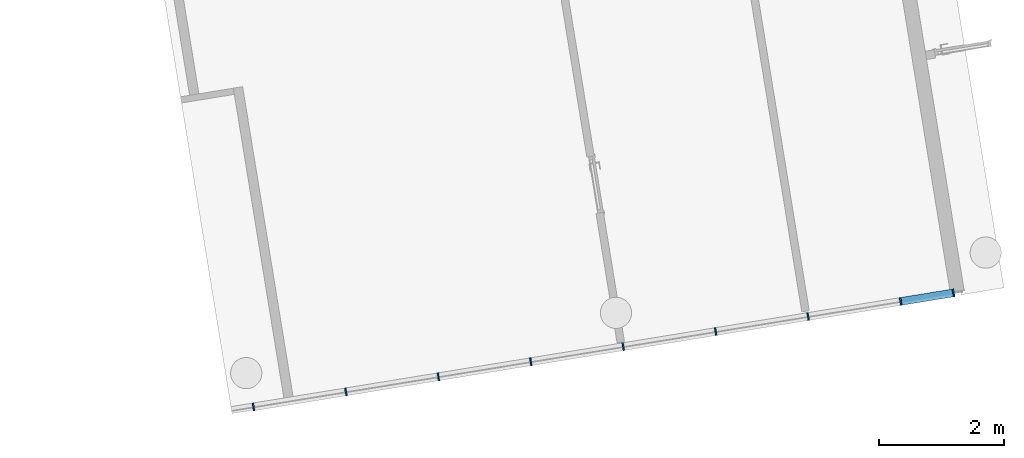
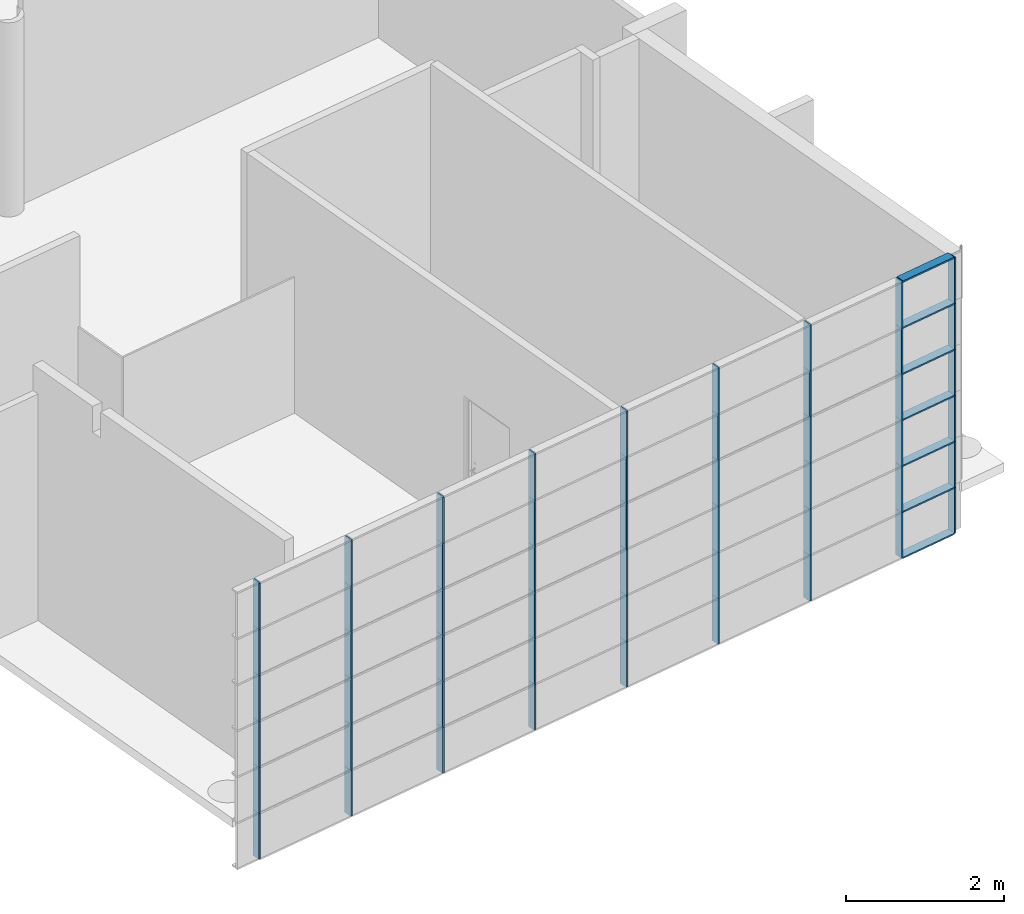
# One storey, part 4 of 18: 61 members, 1 element without a shape of its own.
"""IFC2X3 building model written with IfcOpenShell, lengths in millimetres."""

from ifc_helpers import new_model, entity, si_unit, converted_unit, derived_unit, direction, frame, frame_2d, origin, origin_with_axes, origin_2d_with_axis, place, context, subcontext, project, spatial, rectangle, extrude, source, transform, mapped, material, type_object, element, aggregate, save


model = new_model("IFC2X3")

# Units and contexts
model_context = context("Model", 3, precision=0.01, world=origin(), true_north=direction((6.12323399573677e-17, 1.0)))
plan_context = context("Plan", 3, precision=1e-05, world=origin_with_axes())
body_context = subcontext(model_context, "Body", "Model", "MODEL_VIEW")
ifc_project = project(units=[converted_unit("PLANEANGLEUNIT", "DEGREE", entity("IfcPositiveLengthMeasure", 0.0174532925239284), si_unit("PLANEANGLEUNIT", "RADIAN"), dimensions=[0, 0, 0, 0, 0, 0, 0]), si_unit("AREAUNIT", "SQUARE_METRE"), si_unit("LENGTHUNIT", "METRE", prefix="MILLI"), si_unit("MASSUNIT", "GRAM", prefix="KILO"), si_unit("POWERUNIT", "WATT"), si_unit("PRESSUREUNIT", "PASCAL", prefix="KILO"), si_unit("FORCEUNIT", "NEWTON", prefix="KILO"), si_unit("ELECTRICVOLTAGEUNIT", "VOLT"), si_unit("ELECTRICCURRENTUNIT", "AMPERE"), si_unit("THERMODYNAMICTEMPERATUREUNIT", "DEGREE_CELSIUS"), si_unit("TIMEUNIT", "SECOND"), si_unit("VOLUMEUNIT", "CUBIC_METRE"), derived_unit("LINEARVELOCITYUNIT", [(si_unit("LENGTHUNIT", "METRE"), 1), (si_unit("TIMEUNIT", "SECOND"), -1)]), derived_unit("VOLUMETRICFLOWRATEUNIT", [(si_unit("VOLUMEUNIT", "CUBIC_METRE"), 1), (si_unit("TIMEUNIT", "SECOND"), -1)]), derived_unit("THERMALTRANSMITTANCEUNIT", [(si_unit("POWERUNIT", "WATT"), 1), (si_unit("THERMODYNAMICTEMPERATUREUNIT", "KELVIN"), -1), (si_unit("AREAUNIT", "SQUARE_METRE"), -1)]), derived_unit("SOUNDPRESSUREUNIT", [(si_unit("PRESSUREUNIT", "PASCAL"), 1)])], contexts=[model_context, plan_context])

# Site, building, storey
site_placement = place(None, frame((-305029.896016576, -232111.759730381, 0.0), z_axis=(0.0, 0.0, 1.0), x_axis=(-0.160806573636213, 0.986985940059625, 0.0)))
site = spatial("IfcSite", under=ifc_project, at=site_placement, Name="Default", CompositionType="ELEMENT")
building_placement = place(site_placement, frame((0.0, 0.0, 0.0), z_axis=(0.0, 0.0, 1.0), x_axis=(1.0, -2.77555756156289e-17, 0.0)))
building = spatial("IfcBuilding", under=site, at=building_placement, Name="br001-a-200-1-0001", CompositionType="ELEMENT")
storey_placement = place(building_placement, frame((0.0, 0.0, 55500.0), z_axis=(0.0, 0.0, 1.0), x_axis=(1.0, -2.77555756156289e-17, 0.0)))
storey = spatial("IfcBuildingStorey", under=building, at=storey_placement, Name="H02-Nivå F-3,5 m", CompositionType="ELEMENT", Elevation=55500.0)

# Curtain wall, members
curtain_wall_type = type_object("IfcCurtainWallType", Name="Curtain Wall:Flesland int curt wall", PredefinedType="NOTDEFINED")
curtain_wall_placement = place(storey_placement, frame((0.0, 0.0, -55500.0), z_axis=(0.0, 0.0, 1.0), x_axis=(1.0, -2.77555756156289e-17, 0.0)))
curtain_wall = element("IfcCurtainWall", 1, at=curtain_wall_placement, inside=storey, type_object=curtain_wall_type, Name="Curtain Wall:Flesland int curt wall", ObjectType="Curtain Wall:Flesland int curt wall")
ifc_material = material(Name="Laminate - Ivory, Matte")
member_type_1 = type_object("IfcMemberType", Name="Rectangular Mullion:Flesland Int 25x125", PredefinedType="MULLION", material=ifc_material)
shared_shape_1 = source(origin(), body_context, "Body", "SweptSolid", [
    extrude(rectangle(XDim=25.0, YDim=125.0, at=origin_2d_with_axis()), frame((-12.5, 0.0, -711.0), z_axis=(0.0, 0.0, 1.0), x_axis=(-1.0, 0.0, 0.0)), (0.0, 0.0, 1.0), 711.000000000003),
])
member_1_placement = place(curtain_wall_placement, frame((1172125.09858442, -734166.378367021, 54773.5), z_axis=(0.0, 0.0, -1.0), x_axis=(-2.77555756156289e-17, -1.0, 0.0)))
member_1 = element("IfcMember", 2, at=member_1_placement, type_object=member_type_1, material=ifc_material, Name="Rectangular Mullion:Flesland Int 25x125", ObjectType="Rectangular Mullion:Flesland Int 25x125", context=body_context, shape_type="MappedRepresentation", body=[
    mapped(shared_shape_1, transform((0.0, 0.0, 0.0), scale=1.0)),
])
member_2_placement = place(curtain_wall_placement, frame((1172125.09858442, -734166.378367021, 55484.5), z_axis=(0.0, 0.0, -1.0), x_axis=(-2.77555756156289e-17, -1.0, 0.0)))
member_2 = element("IfcMember", 3, at=member_2_placement, type_object=member_type_1, material=ifc_material, Name="Rectangular Mullion:Flesland Int 25x125", ObjectType="Rectangular Mullion:Flesland Int 25x125", context=body_context, shape_type="MappedRepresentation", body=[
    mapped(shared_shape_1, transform((0.0, 0.0, 0.0), scale=1.0)),
])
member_3_placement = place(curtain_wall_placement, frame((1172125.09858442, -734166.378367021, 56195.5), z_axis=(0.0, 0.0, -1.0), x_axis=(-2.77555756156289e-17, -1.0, 0.0)))
member_3 = element("IfcMember", 4, at=member_3_placement, type_object=member_type_1, material=ifc_material, Name="Rectangular Mullion:Flesland Int 25x125", ObjectType="Rectangular Mullion:Flesland Int 25x125", context=body_context, shape_type="MappedRepresentation", body=[
    mapped(shared_shape_1, transform((0.0, 0.0, 0.0), scale=1.0)),
])
member_4_placement = place(curtain_wall_placement, frame((1172125.09858442, -734166.378367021, 56906.5), z_axis=(0.0, 0.0, -1.0), x_axis=(-2.77555756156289e-17, -1.0, 0.0)))
member_4 = element("IfcMember", 5, at=member_4_placement, type_object=member_type_1, material=ifc_material, Name="Rectangular Mullion:Flesland Int 25x125", ObjectType="Rectangular Mullion:Flesland Int 25x125", context=body_context, shape_type="MappedRepresentation", body=[
    mapped(shared_shape_1, transform((0.0, 0.0, 0.0), scale=1.0)),
])
member_5_placement = place(curtain_wall_placement, frame((1172125.09858442, -734166.378367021, 57617.5), z_axis=(0.0, 0.0, -1.0), x_axis=(-2.77555756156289e-17, -1.0, 0.0)))
member_5 = element("IfcMember", 6, at=member_5_placement, type_object=member_type_1, material=ifc_material, Name="Rectangular Mullion:Flesland Int 25x125", ObjectType="Rectangular Mullion:Flesland Int 25x125", context=body_context, shape_type="MappedRepresentation", body=[
    mapped(shared_shape_1, transform((0.0, 0.0, 0.0), scale=1.0)),
])
member_6_placement = place(curtain_wall_placement, frame((1172125.09858442, -734166.378367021, 58328.5), z_axis=(0.0, 0.0, -1.0), x_axis=(-2.77555756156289e-17, -1.0, 0.0)))
member_6 = element("IfcMember", 7, at=member_6_placement, type_object=member_type_1, material=ifc_material, Name="Rectangular Mullion:Flesland Int 25x125", ObjectType="Rectangular Mullion:Flesland Int 25x125", context=body_context, shape_type="MappedRepresentation", body=[
    mapped(shared_shape_1, transform((0.0, 0.0, 0.0), scale=1.0)),
])
member_type_2 = type_object("IfcMemberType", Name="Rectangular Mullion:Flesland Int 25x125", PredefinedType="MULLION", material=ifc_material)
shared_shape_2 = source(origin(), body_context, "Body", "SweptSolid", [
    extrude(rectangle(XDim=25.0, YDim=125.0, at=frame_2d((0.0, 7.105427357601e-15), x_axis=(1.0, 0.0))), frame((0.0, 0.0, -834.999999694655), z_axis=(0.0, 0.0, 1.0), x_axis=(-1.0, 0.0, 0.0)), (0.0, 0.0, 1.0), 834.999999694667),
])
member_7_placement = place(curtain_wall_placement, frame((1172125.09858442, -734141.378367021, 54773.5), z_axis=(-2.77555756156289e-17, -1.0, 0.0), x_axis=(0.0, 0.0, 1.0)))
member_7 = element("IfcMember", 8, at=member_7_placement, type_object=member_type_2, material=ifc_material, Name="Rectangular Mullion:Flesland Int 25x125", ObjectType="Rectangular Mullion:Flesland Int 25x125", context=body_context, shape_type="MappedRepresentation", body=[
    mapped(shared_shape_2, transform((0.0, 0.0, 0.0), scale=1.0)),
])
member_8_placement = place(curtain_wall_placement, frame((1172125.09858442, -734141.378367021, 55484.5), z_axis=(-2.77555756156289e-17, -1.0, 0.0), x_axis=(0.0, 0.0, 1.0)))
member_8 = element("IfcMember", 9, at=member_8_placement, type_object=member_type_2, material=ifc_material, Name="Rectangular Mullion:Flesland Int 25x125", ObjectType="Rectangular Mullion:Flesland Int 25x125", context=body_context, shape_type="MappedRepresentation", body=[
    mapped(shared_shape_2, transform((0.0, 0.0, 0.0), scale=1.0)),
])
member_9_placement = place(curtain_wall_placement, frame((1172125.09858442, -734141.378367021, 56195.5), z_axis=(-2.77555756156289e-17, -1.0, 0.0), x_axis=(0.0, 0.0, 1.0)))
member_9 = element("IfcMember", 10, at=member_9_placement, type_object=member_type_2, material=ifc_material, Name="Rectangular Mullion:Flesland Int 25x125", ObjectType="Rectangular Mullion:Flesland Int 25x125", context=body_context, shape_type="MappedRepresentation", body=[
    mapped(shared_shape_2, transform((0.0, 0.0, 0.0), scale=1.0)),
])
member_10_placement = place(curtain_wall_placement, frame((1172125.09858442, -734141.378367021, 56906.5), z_axis=(-2.77555756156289e-17, -1.0, 0.0), x_axis=(0.0, 0.0, 1.0)))
member_10 = element("IfcMember", 11, at=member_10_placement, type_object=member_type_2, material=ifc_material, Name="Rectangular Mullion:Flesland Int 25x125", ObjectType="Rectangular Mullion:Flesland Int 25x125", context=body_context, shape_type="MappedRepresentation", body=[
    mapped(shared_shape_2, transform((0.0, 0.0, 0.0), scale=1.0)),
])
member_11_placement = place(curtain_wall_placement, frame((1172125.09858442, -734141.378367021, 57617.5), z_axis=(-2.77555756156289e-17, -1.0, 0.0), x_axis=(0.0, 0.0, 1.0)))
member_11 = element("IfcMember", 12, at=member_11_placement, type_object=member_type_2, material=ifc_material, Name="Rectangular Mullion:Flesland Int 25x125", ObjectType="Rectangular Mullion:Flesland Int 25x125", context=body_context, shape_type="MappedRepresentation", body=[
    mapped(shared_shape_2, transform((0.0, 0.0, 0.0), scale=1.0)),
])
member_12_placement = place(curtain_wall_placement, frame((1172125.09858442, -734141.378367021, 58328.5), z_axis=(-2.77555756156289e-17, -1.0, 0.0), x_axis=(0.0, 0.0, 1.0)))
member_12 = element("IfcMember", 13, at=member_12_placement, type_object=member_type_2, material=ifc_material, Name="Rectangular Mullion:Flesland Int 25x125", ObjectType="Rectangular Mullion:Flesland Int 25x125", context=body_context, shape_type="MappedRepresentation", body=[
    mapped(shared_shape_2, transform((0.0, 0.0, 0.0), scale=1.0)),
])
member_13_placement = place(curtain_wall_placement, frame((1172125.09858442, -734141.378367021, 59039.5), z_axis=(-2.77555756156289e-17, -1.0, 0.0), x_axis=(0.0, 0.0, 1.0)))
member_13 = element("IfcMember", 14, at=member_13_placement, type_object=member_type_2, material=ifc_material, Name="Rectangular Mullion:Flesland Int 25x125", ObjectType="Rectangular Mullion:Flesland Int 25x125", context=body_context, shape_type="MappedRepresentation", body=[
    mapped(shared_shape_2, transform((0.0, 0.0, 0.0), scale=1.0)),
])
member_type_3 = type_object("IfcMemberType", Name="Rectangular Mullion:Flesland Int 25x125", PredefinedType="MULLION", material=ifc_material)
shared_shape_3 = source(origin(), body_context, "Body", "SweptSolid", [
    extrude(rectangle(XDim=25.0, YDim=125.0, at=origin_2d_with_axis()), frame((0.0, 0.0, -711.0), z_axis=(0.0, 0.0, 1.0), x_axis=(-1.0, 0.0, 0.0)), (0.0, 0.0, 1.0), 711.000000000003),
])
member_14_placement = place(curtain_wall_placement, frame((1172125.09858442, -722793.878367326, 54773.5), z_axis=(0.0, 0.0, -1.0), x_axis=(-2.77555756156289e-17, -1.0, 0.0)))
member_14 = element("IfcMember", 15, at=member_14_placement, type_object=member_type_3, material=ifc_material, Name="Rectangular Mullion:Flesland Int 25x125", ObjectType="Rectangular Mullion:Flesland Int 25x125", context=body_context, shape_type="MappedRepresentation", body=[
    mapped(shared_shape_3, transform((0.0, 0.0, 0.0), scale=1.0)),
])
member_15_placement = place(curtain_wall_placement, frame((1172125.09858442, -724293.878367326, 54773.5), z_axis=(0.0, 0.0, -1.0), x_axis=(-2.77555756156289e-17, -1.0, 0.0)))
member_15 = element("IfcMember", 16, at=member_15_placement, type_object=member_type_3, material=ifc_material, Name="Rectangular Mullion:Flesland Int 25x125", ObjectType="Rectangular Mullion:Flesland Int 25x125", context=body_context, shape_type="MappedRepresentation", body=[
    mapped(shared_shape_3, transform((0.0, 0.0, 0.0), scale=1.0)),
])
member_16_placement = place(curtain_wall_placement, frame((1172125.09858442, -725793.878367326, 54773.5), z_axis=(0.0, 0.0, -1.0), x_axis=(-2.77555756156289e-17, -1.0, 0.0)))
member_16 = element("IfcMember", 17, at=member_16_placement, type_object=member_type_3, material=ifc_material, Name="Rectangular Mullion:Flesland Int 25x125", ObjectType="Rectangular Mullion:Flesland Int 25x125", context=body_context, shape_type="MappedRepresentation", body=[
    mapped(shared_shape_3, transform((0.0, 0.0, 0.0), scale=1.0)),
])
member_17_placement = place(curtain_wall_placement, frame((1172125.09858442, -727293.878367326, 54773.5), z_axis=(0.0, 0.0, -1.0), x_axis=(-2.77555756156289e-17, -1.0, 0.0)))
member_17 = element("IfcMember", 18, at=member_17_placement, type_object=member_type_3, material=ifc_material, Name="Rectangular Mullion:Flesland Int 25x125", ObjectType="Rectangular Mullion:Flesland Int 25x125", context=body_context, shape_type="MappedRepresentation", body=[
    mapped(shared_shape_3, transform((0.0, 0.0, 0.0), scale=1.0)),
])
member_18_placement = place(curtain_wall_placement, frame((1172125.09858442, -728793.878367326, 54773.5), z_axis=(0.0, 0.0, -1.0), x_axis=(-2.77555756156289e-17, -1.0, 0.0)))
member_18 = element("IfcMember", 19, at=member_18_placement, type_object=member_type_3, material=ifc_material, Name="Rectangular Mullion:Flesland Int 25x125", ObjectType="Rectangular Mullion:Flesland Int 25x125", context=body_context, shape_type="MappedRepresentation", body=[
    mapped(shared_shape_3, transform((0.0, 0.0, 0.0), scale=1.0)),
])
member_19_placement = place(curtain_wall_placement, frame((1172125.09858442, -730293.878367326, 54773.5), z_axis=(0.0, 0.0, -1.0), x_axis=(-2.77555756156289e-17, -1.0, 0.0)))
member_19 = element("IfcMember", 20, at=member_19_placement, type_object=member_type_3, material=ifc_material, Name="Rectangular Mullion:Flesland Int 25x125", ObjectType="Rectangular Mullion:Flesland Int 25x125", context=body_context, shape_type="MappedRepresentation", body=[
    mapped(shared_shape_3, transform((0.0, 0.0, 0.0), scale=1.0)),
])
member_20_placement = place(curtain_wall_placement, frame((1172125.09858442, -731793.878367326, 54773.5), z_axis=(0.0, 0.0, -1.0), x_axis=(-2.77555756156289e-17, -1.0, 0.0)))
member_20 = element("IfcMember", 21, at=member_20_placement, type_object=member_type_3, material=ifc_material, Name="Rectangular Mullion:Flesland Int 25x125", ObjectType="Rectangular Mullion:Flesland Int 25x125", context=body_context, shape_type="MappedRepresentation", body=[
    mapped(shared_shape_3, transform((0.0, 0.0, 0.0), scale=1.0)),
])
member_21_placement = place(curtain_wall_placement, frame((1172125.09858442, -733293.878367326, 54773.5), z_axis=(0.0, 0.0, -1.0), x_axis=(-2.77555756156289e-17, -1.0, 0.0)))
member_21 = element("IfcMember", 22, at=member_21_placement, type_object=member_type_3, material=ifc_material, Name="Rectangular Mullion:Flesland Int 25x125", ObjectType="Rectangular Mullion:Flesland Int 25x125", context=body_context, shape_type="MappedRepresentation", body=[
    mapped(shared_shape_3, transform((0.0, 0.0, 0.0), scale=1.0)),
])
member_22_placement = place(curtain_wall_placement, frame((1172125.09858442, -722793.878367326, 55484.5), z_axis=(0.0, 0.0, -1.0), x_axis=(-2.77555756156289e-17, -1.0, 0.0)))
member_22 = element("IfcMember", 23, at=member_22_placement, type_object=member_type_3, material=ifc_material, Name="Rectangular Mullion:Flesland Int 25x125", ObjectType="Rectangular Mullion:Flesland Int 25x125", context=body_context, shape_type="MappedRepresentation", body=[
    mapped(shared_shape_3, transform((0.0, 0.0, 0.0), scale=1.0)),
])
member_23_placement = place(curtain_wall_placement, frame((1172125.09858442, -724293.878367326, 55484.5), z_axis=(0.0, 0.0, -1.0), x_axis=(-2.77555756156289e-17, -1.0, 0.0)))
member_23 = element("IfcMember", 24, at=member_23_placement, type_object=member_type_3, material=ifc_material, Name="Rectangular Mullion:Flesland Int 25x125", ObjectType="Rectangular Mullion:Flesland Int 25x125", context=body_context, shape_type="MappedRepresentation", body=[
    mapped(shared_shape_3, transform((0.0, 0.0, 0.0), scale=1.0)),
])
member_24_placement = place(curtain_wall_placement, frame((1172125.09858442, -725793.878367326, 55484.5), z_axis=(0.0, 0.0, -1.0), x_axis=(-2.77555756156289e-17, -1.0, 0.0)))
member_24 = element("IfcMember", 25, at=member_24_placement, type_object=member_type_3, material=ifc_material, Name="Rectangular Mullion:Flesland Int 25x125", ObjectType="Rectangular Mullion:Flesland Int 25x125", context=body_context, shape_type="MappedRepresentation", body=[
    mapped(shared_shape_3, transform((0.0, 0.0, 0.0), scale=1.0)),
])
member_25_placement = place(curtain_wall_placement, frame((1172125.09858442, -727293.878367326, 55484.5), z_axis=(0.0, 0.0, -1.0), x_axis=(-2.77555756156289e-17, -1.0, 0.0)))
member_25 = element("IfcMember", 26, at=member_25_placement, type_object=member_type_3, material=ifc_material, Name="Rectangular Mullion:Flesland Int 25x125", ObjectType="Rectangular Mullion:Flesland Int 25x125", context=body_context, shape_type="MappedRepresentation", body=[
    mapped(shared_shape_3, transform((0.0, 0.0, 0.0), scale=1.0)),
])
member_26_placement = place(curtain_wall_placement, frame((1172125.09858442, -728793.878367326, 55484.5), z_axis=(0.0, 0.0, -1.0), x_axis=(-2.77555756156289e-17, -1.0, 0.0)))
member_26 = element("IfcMember", 27, at=member_26_placement, type_object=member_type_3, material=ifc_material, Name="Rectangular Mullion:Flesland Int 25x125", ObjectType="Rectangular Mullion:Flesland Int 25x125", context=body_context, shape_type="MappedRepresentation", body=[
    mapped(shared_shape_3, transform((0.0, 0.0, 0.0), scale=1.0)),
])
member_27_placement = place(curtain_wall_placement, frame((1172125.09858442, -730293.878367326, 55484.5), z_axis=(0.0, 0.0, -1.0), x_axis=(-2.77555756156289e-17, -1.0, 0.0)))
member_27 = element("IfcMember", 28, at=member_27_placement, type_object=member_type_3, material=ifc_material, Name="Rectangular Mullion:Flesland Int 25x125", ObjectType="Rectangular Mullion:Flesland Int 25x125", context=body_context, shape_type="MappedRepresentation", body=[
    mapped(shared_shape_3, transform((0.0, 0.0, 0.0), scale=1.0)),
])
member_28_placement = place(curtain_wall_placement, frame((1172125.09858442, -731793.878367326, 55484.5), z_axis=(0.0, 0.0, -1.0), x_axis=(-2.77555756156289e-17, -1.0, 0.0)))
member_28 = element("IfcMember", 29, at=member_28_placement, type_object=member_type_3, material=ifc_material, Name="Rectangular Mullion:Flesland Int 25x125", ObjectType="Rectangular Mullion:Flesland Int 25x125", context=body_context, shape_type="MappedRepresentation", body=[
    mapped(shared_shape_3, transform((0.0, 0.0, 0.0), scale=1.0)),
])
member_29_placement = place(curtain_wall_placement, frame((1172125.09858442, -733293.878367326, 55484.5), z_axis=(0.0, 0.0, -1.0), x_axis=(-2.77555756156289e-17, -1.0, 0.0)))
member_29 = element("IfcMember", 30, at=member_29_placement, type_object=member_type_3, material=ifc_material, Name="Rectangular Mullion:Flesland Int 25x125", ObjectType="Rectangular Mullion:Flesland Int 25x125", context=body_context, shape_type="MappedRepresentation", body=[
    mapped(shared_shape_3, transform((0.0, 0.0, 0.0), scale=1.0)),
])
member_30_placement = place(curtain_wall_placement, frame((1172125.09858442, -722793.878367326, 56195.5), z_axis=(0.0, 0.0, -1.0), x_axis=(-2.77555756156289e-17, -1.0, 0.0)))
member_30 = element("IfcMember", 31, at=member_30_placement, type_object=member_type_3, material=ifc_material, Name="Rectangular Mullion:Flesland Int 25x125", ObjectType="Rectangular Mullion:Flesland Int 25x125", context=body_context, shape_type="MappedRepresentation", body=[
    mapped(shared_shape_3, transform((0.0, 0.0, 0.0), scale=1.0)),
])
member_31_placement = place(curtain_wall_placement, frame((1172125.09858442, -724293.878367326, 56195.5), z_axis=(0.0, 0.0, -1.0), x_axis=(-2.77555756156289e-17, -1.0, 0.0)))
member_31 = element("IfcMember", 32, at=member_31_placement, type_object=member_type_3, material=ifc_material, Name="Rectangular Mullion:Flesland Int 25x125", ObjectType="Rectangular Mullion:Flesland Int 25x125", context=body_context, shape_type="MappedRepresentation", body=[
    mapped(shared_shape_3, transform((0.0, 0.0, 0.0), scale=1.0)),
])
member_32_placement = place(curtain_wall_placement, frame((1172125.09858442, -725793.878367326, 56195.5), z_axis=(0.0, 0.0, -1.0), x_axis=(-2.77555756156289e-17, -1.0, 0.0)))
member_32 = element("IfcMember", 33, at=member_32_placement, type_object=member_type_3, material=ifc_material, Name="Rectangular Mullion:Flesland Int 25x125", ObjectType="Rectangular Mullion:Flesland Int 25x125", context=body_context, shape_type="MappedRepresentation", body=[
    mapped(shared_shape_3, transform((0.0, 0.0, 0.0), scale=1.0)),
])
member_33_placement = place(curtain_wall_placement, frame((1172125.09858442, -727293.878367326, 56195.5), z_axis=(0.0, 0.0, -1.0), x_axis=(-2.77555756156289e-17, -1.0, 0.0)))
member_33 = element("IfcMember", 34, at=member_33_placement, type_object=member_type_3, material=ifc_material, Name="Rectangular Mullion:Flesland Int 25x125", ObjectType="Rectangular Mullion:Flesland Int 25x125", context=body_context, shape_type="MappedRepresentation", body=[
    mapped(shared_shape_3, transform((0.0, 0.0, 0.0), scale=1.0)),
])
member_34_placement = place(curtain_wall_placement, frame((1172125.09858442, -728793.878367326, 56195.5), z_axis=(0.0, 0.0, -1.0), x_axis=(-2.77555756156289e-17, -1.0, 0.0)))
member_34 = element("IfcMember", 35, at=member_34_placement, type_object=member_type_3, material=ifc_material, Name="Rectangular Mullion:Flesland Int 25x125", ObjectType="Rectangular Mullion:Flesland Int 25x125", context=body_context, shape_type="MappedRepresentation", body=[
    mapped(shared_shape_3, transform((0.0, 0.0, 0.0), scale=1.0)),
])
member_35_placement = place(curtain_wall_placement, frame((1172125.09858442, -730293.878367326, 56195.5), z_axis=(0.0, 0.0, -1.0), x_axis=(-2.77555756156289e-17, -1.0, 0.0)))
member_35 = element("IfcMember", 36, at=member_35_placement, type_object=member_type_3, material=ifc_material, Name="Rectangular Mullion:Flesland Int 25x125", ObjectType="Rectangular Mullion:Flesland Int 25x125", context=body_context, shape_type="MappedRepresentation", body=[
    mapped(shared_shape_3, transform((0.0, 0.0, 0.0), scale=1.0)),
])
member_36_placement = place(curtain_wall_placement, frame((1172125.09858442, -731793.878367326, 56195.5), z_axis=(0.0, 0.0, -1.0), x_axis=(-2.77555756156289e-17, -1.0, 0.0)))
member_36 = element("IfcMember", 37, at=member_36_placement, type_object=member_type_3, material=ifc_material, Name="Rectangular Mullion:Flesland Int 25x125", ObjectType="Rectangular Mullion:Flesland Int 25x125", context=body_context, shape_type="MappedRepresentation", body=[
    mapped(shared_shape_3, transform((0.0, 0.0, 0.0), scale=1.0)),
])
member_37_placement = place(curtain_wall_placement, frame((1172125.09858442, -733293.878367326, 56195.5), z_axis=(0.0, 0.0, -1.0), x_axis=(-2.77555756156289e-17, -1.0, 0.0)))
member_37 = element("IfcMember", 38, at=member_37_placement, type_object=member_type_3, material=ifc_material, Name="Rectangular Mullion:Flesland Int 25x125", ObjectType="Rectangular Mullion:Flesland Int 25x125", context=body_context, shape_type="MappedRepresentation", body=[
    mapped(shared_shape_3, transform((0.0, 0.0, 0.0), scale=1.0)),
])
member_38_placement = place(curtain_wall_placement, frame((1172125.09858442, -722793.878367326, 56906.5), z_axis=(0.0, 0.0, -1.0), x_axis=(-2.77555756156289e-17, -1.0, 0.0)))
member_38 = element("IfcMember", 39, at=member_38_placement, type_object=member_type_3, material=ifc_material, Name="Rectangular Mullion:Flesland Int 25x125", ObjectType="Rectangular Mullion:Flesland Int 25x125", context=body_context, shape_type="MappedRepresentation", body=[
    mapped(shared_shape_3, transform((0.0, 0.0, 0.0), scale=1.0)),
])
member_39_placement = place(curtain_wall_placement, frame((1172125.09858442, -724293.878367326, 56906.5), z_axis=(0.0, 0.0, -1.0), x_axis=(-2.77555756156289e-17, -1.0, 0.0)))
member_39 = element("IfcMember", 40, at=member_39_placement, type_object=member_type_3, material=ifc_material, Name="Rectangular Mullion:Flesland Int 25x125", ObjectType="Rectangular Mullion:Flesland Int 25x125", context=body_context, shape_type="MappedRepresentation", body=[
    mapped(shared_shape_3, transform((0.0, 0.0, 0.0), scale=1.0)),
])
member_40_placement = place(curtain_wall_placement, frame((1172125.09858442, -725793.878367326, 56906.5), z_axis=(0.0, 0.0, -1.0), x_axis=(-2.77555756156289e-17, -1.0, 0.0)))
member_40 = element("IfcMember", 41, at=member_40_placement, type_object=member_type_3, material=ifc_material, Name="Rectangular Mullion:Flesland Int 25x125", ObjectType="Rectangular Mullion:Flesland Int 25x125", context=body_context, shape_type="MappedRepresentation", body=[
    mapped(shared_shape_3, transform((0.0, 0.0, 0.0), scale=1.0)),
])
member_41_placement = place(curtain_wall_placement, frame((1172125.09858442, -727293.878367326, 56906.5), z_axis=(0.0, 0.0, -1.0), x_axis=(-2.77555756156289e-17, -1.0, 0.0)))
member_41 = element("IfcMember", 42, at=member_41_placement, type_object=member_type_3, material=ifc_material, Name="Rectangular Mullion:Flesland Int 25x125", ObjectType="Rectangular Mullion:Flesland Int 25x125", context=body_context, shape_type="MappedRepresentation", body=[
    mapped(shared_shape_3, transform((0.0, 0.0, 0.0), scale=1.0)),
])
member_42_placement = place(curtain_wall_placement, frame((1172125.09858442, -728793.878367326, 56906.5), z_axis=(0.0, 0.0, -1.0), x_axis=(-2.77555756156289e-17, -1.0, 0.0)))
member_42 = element("IfcMember", 43, at=member_42_placement, type_object=member_type_3, material=ifc_material, Name="Rectangular Mullion:Flesland Int 25x125", ObjectType="Rectangular Mullion:Flesland Int 25x125", context=body_context, shape_type="MappedRepresentation", body=[
    mapped(shared_shape_3, transform((0.0, 0.0, 0.0), scale=1.0)),
])
member_43_placement = place(curtain_wall_placement, frame((1172125.09858442, -730293.878367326, 56906.5), z_axis=(0.0, 0.0, -1.0), x_axis=(-2.77555756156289e-17, -1.0, 0.0)))
member_43 = element("IfcMember", 44, at=member_43_placement, type_object=member_type_3, material=ifc_material, Name="Rectangular Mullion:Flesland Int 25x125", ObjectType="Rectangular Mullion:Flesland Int 25x125", context=body_context, shape_type="MappedRepresentation", body=[
    mapped(shared_shape_3, transform((0.0, 0.0, 0.0), scale=1.0)),
])
member_44_placement = place(curtain_wall_placement, frame((1172125.09858442, -731793.878367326, 56906.5), z_axis=(0.0, 0.0, -1.0), x_axis=(-2.77555756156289e-17, -1.0, 0.0)))
member_44 = element("IfcMember", 45, at=member_44_placement, type_object=member_type_3, material=ifc_material, Name="Rectangular Mullion:Flesland Int 25x125", ObjectType="Rectangular Mullion:Flesland Int 25x125", context=body_context, shape_type="MappedRepresentation", body=[
    mapped(shared_shape_3, transform((0.0, 0.0, 0.0), scale=1.0)),
])
member_45_placement = place(curtain_wall_placement, frame((1172125.09858442, -733293.878367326, 56906.5), z_axis=(0.0, 0.0, -1.0), x_axis=(-2.77555756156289e-17, -1.0, 0.0)))
member_45 = element("IfcMember", 46, at=member_45_placement, type_object=member_type_3, material=ifc_material, Name="Rectangular Mullion:Flesland Int 25x125", ObjectType="Rectangular Mullion:Flesland Int 25x125", context=body_context, shape_type="MappedRepresentation", body=[
    mapped(shared_shape_3, transform((0.0, 0.0, 0.0), scale=1.0)),
])
member_46_placement = place(curtain_wall_placement, frame((1172125.09858442, -722793.878367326, 57617.5), z_axis=(0.0, 0.0, -1.0), x_axis=(-2.77555756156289e-17, -1.0, 0.0)))
member_46 = element("IfcMember", 47, at=member_46_placement, type_object=member_type_3, material=ifc_material, Name="Rectangular Mullion:Flesland Int 25x125", ObjectType="Rectangular Mullion:Flesland Int 25x125", context=body_context, shape_type="MappedRepresentation", body=[
    mapped(shared_shape_3, transform((0.0, 0.0, 0.0), scale=1.0)),
])
member_47_placement = place(curtain_wall_placement, frame((1172125.09858442, -724293.878367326, 57617.5), z_axis=(0.0, 0.0, -1.0), x_axis=(-2.77555756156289e-17, -1.0, 0.0)))
member_47 = element("IfcMember", 48, at=member_47_placement, type_object=member_type_3, material=ifc_material, Name="Rectangular Mullion:Flesland Int 25x125", ObjectType="Rectangular Mullion:Flesland Int 25x125", context=body_context, shape_type="MappedRepresentation", body=[
    mapped(shared_shape_3, transform((0.0, 0.0, 0.0), scale=1.0)),
])
member_48_placement = place(curtain_wall_placement, frame((1172125.09858442, -725793.878367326, 57617.5), z_axis=(0.0, 0.0, -1.0), x_axis=(-2.77555756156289e-17, -1.0, 0.0)))
member_48 = element("IfcMember", 49, at=member_48_placement, type_object=member_type_3, material=ifc_material, Name="Rectangular Mullion:Flesland Int 25x125", ObjectType="Rectangular Mullion:Flesland Int 25x125", context=body_context, shape_type="MappedRepresentation", body=[
    mapped(shared_shape_3, transform((0.0, 0.0, 0.0), scale=1.0)),
])
member_49_placement = place(curtain_wall_placement, frame((1172125.09858442, -727293.878367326, 57617.5), z_axis=(0.0, 0.0, -1.0), x_axis=(-2.77555756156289e-17, -1.0, 0.0)))
member_49 = element("IfcMember", 50, at=member_49_placement, type_object=member_type_3, material=ifc_material, Name="Rectangular Mullion:Flesland Int 25x125", ObjectType="Rectangular Mullion:Flesland Int 25x125", context=body_context, shape_type="MappedRepresentation", body=[
    mapped(shared_shape_3, transform((0.0, 0.0, 0.0), scale=1.0)),
])
member_50_placement = place(curtain_wall_placement, frame((1172125.09858442, -728793.878367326, 57617.5), z_axis=(0.0, 0.0, -1.0), x_axis=(-2.77555756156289e-17, -1.0, 0.0)))
member_50 = element("IfcMember", 51, at=member_50_placement, type_object=member_type_3, material=ifc_material, Name="Rectangular Mullion:Flesland Int 25x125", ObjectType="Rectangular Mullion:Flesland Int 25x125", context=body_context, shape_type="MappedRepresentation", body=[
    mapped(shared_shape_3, transform((0.0, 0.0, 0.0), scale=1.0)),
])
member_51_placement = place(curtain_wall_placement, frame((1172125.09858442, -730293.878367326, 57617.5), z_axis=(0.0, 0.0, -1.0), x_axis=(-2.77555756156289e-17, -1.0, 0.0)))
member_51 = element("IfcMember", 52, at=member_51_placement, type_object=member_type_3, material=ifc_material, Name="Rectangular Mullion:Flesland Int 25x125", ObjectType="Rectangular Mullion:Flesland Int 25x125", context=body_context, shape_type="MappedRepresentation", body=[
    mapped(shared_shape_3, transform((0.0, 0.0, 0.0), scale=1.0)),
])
member_52_placement = place(curtain_wall_placement, frame((1172125.09858442, -731793.878367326, 57617.5), z_axis=(0.0, 0.0, -1.0), x_axis=(-2.77555756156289e-17, -1.0, 0.0)))
member_52 = element("IfcMember", 53, at=member_52_placement, type_object=member_type_3, material=ifc_material, Name="Rectangular Mullion:Flesland Int 25x125", ObjectType="Rectangular Mullion:Flesland Int 25x125", context=body_context, shape_type="MappedRepresentation", body=[
    mapped(shared_shape_3, transform((0.0, 0.0, 0.0), scale=1.0)),
])
member_53_placement = place(curtain_wall_placement, frame((1172125.09858442, -733293.878367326, 57617.5), z_axis=(0.0, 0.0, -1.0), x_axis=(-2.77555756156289e-17, -1.0, 0.0)))
member_53 = element("IfcMember", 54, at=member_53_placement, type_object=member_type_3, material=ifc_material, Name="Rectangular Mullion:Flesland Int 25x125", ObjectType="Rectangular Mullion:Flesland Int 25x125", context=body_context, shape_type="MappedRepresentation", body=[
    mapped(shared_shape_3, transform((0.0, 0.0, 0.0), scale=1.0)),
])
member_54_placement = place(curtain_wall_placement, frame((1172125.09858442, -722793.878367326, 58328.5), z_axis=(0.0, 0.0, -1.0), x_axis=(-2.77555756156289e-17, -1.0, 0.0)))
member_54 = element("IfcMember", 55, at=member_54_placement, type_object=member_type_3, material=ifc_material, Name="Rectangular Mullion:Flesland Int 25x125", ObjectType="Rectangular Mullion:Flesland Int 25x125", context=body_context, shape_type="MappedRepresentation", body=[
    mapped(shared_shape_3, transform((0.0, 0.0, 0.0), scale=1.0)),
])
member_55_placement = place(curtain_wall_placement, frame((1172125.09858442, -724293.878367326, 58328.5), z_axis=(0.0, 0.0, -1.0), x_axis=(-2.77555756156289e-17, -1.0, 0.0)))
member_55 = element("IfcMember", 56, at=member_55_placement, type_object=member_type_3, material=ifc_material, Name="Rectangular Mullion:Flesland Int 25x125", ObjectType="Rectangular Mullion:Flesland Int 25x125", context=body_context, shape_type="MappedRepresentation", body=[
    mapped(shared_shape_3, transform((0.0, 0.0, 0.0), scale=1.0)),
])
member_56_placement = place(curtain_wall_placement, frame((1172125.09858442, -725793.878367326, 58328.5), z_axis=(0.0, 0.0, -1.0), x_axis=(-2.77555756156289e-17, -1.0, 0.0)))
member_56 = element("IfcMember", 57, at=member_56_placement, type_object=member_type_3, material=ifc_material, Name="Rectangular Mullion:Flesland Int 25x125", ObjectType="Rectangular Mullion:Flesland Int 25x125", context=body_context, shape_type="MappedRepresentation", body=[
    mapped(shared_shape_3, transform((0.0, 0.0, 0.0), scale=1.0)),
])
member_57_placement = place(curtain_wall_placement, frame((1172125.09858442, -727293.878367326, 58328.5), z_axis=(0.0, 0.0, -1.0), x_axis=(-2.77555756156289e-17, -1.0, 0.0)))
member_57 = element("IfcMember", 58, at=member_57_placement, type_object=member_type_3, material=ifc_material, Name="Rectangular Mullion:Flesland Int 25x125", ObjectType="Rectangular Mullion:Flesland Int 25x125", context=body_context, shape_type="MappedRepresentation", body=[
    mapped(shared_shape_3, transform((0.0, 0.0, 0.0), scale=1.0)),
])
member_58_placement = place(curtain_wall_placement, frame((1172125.09858442, -728793.878367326, 58328.5), z_axis=(0.0, 0.0, -1.0), x_axis=(-2.77555756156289e-17, -1.0, 0.0)))
member_58 = element("IfcMember", 59, at=member_58_placement, type_object=member_type_3, material=ifc_material, Name="Rectangular Mullion:Flesland Int 25x125", ObjectType="Rectangular Mullion:Flesland Int 25x125", context=body_context, shape_type="MappedRepresentation", body=[
    mapped(shared_shape_3, transform((0.0, 0.0, 0.0), scale=1.0)),
])
member_59_placement = place(curtain_wall_placement, frame((1172125.09858442, -730293.878367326, 58328.5), z_axis=(0.0, 0.0, -1.0), x_axis=(-2.77555756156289e-17, -1.0, 0.0)))
member_59 = element("IfcMember", 60, at=member_59_placement, type_object=member_type_3, material=ifc_material, Name="Rectangular Mullion:Flesland Int 25x125", ObjectType="Rectangular Mullion:Flesland Int 25x125", context=body_context, shape_type="MappedRepresentation", body=[
    mapped(shared_shape_3, transform((0.0, 0.0, 0.0), scale=1.0)),
])
member_60_placement = place(curtain_wall_placement, frame((1172125.09858442, -731793.878367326, 58328.5), z_axis=(0.0, 0.0, -1.0), x_axis=(-2.77555756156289e-17, -1.0, 0.0)))
member_60 = element("IfcMember", 61, at=member_60_placement, type_object=member_type_3, material=ifc_material, Name="Rectangular Mullion:Flesland Int 25x125", ObjectType="Rectangular Mullion:Flesland Int 25x125", context=body_context, shape_type="MappedRepresentation", body=[
    mapped(shared_shape_3, transform((0.0, 0.0, 0.0), scale=1.0)),
])
member_61_placement = place(curtain_wall_placement, frame((1172125.09858442, -733293.878367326, 58328.5), z_axis=(0.0, 0.0, -1.0), x_axis=(-2.77555756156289e-17, -1.0, 0.0)))
member_61 = element("IfcMember", 62, at=member_61_placement, type_object=member_type_3, material=ifc_material, Name="Rectangular Mullion:Flesland Int 25x125", ObjectType="Rectangular Mullion:Flesland Int 25x125", context=body_context, shape_type="MappedRepresentation", body=[
    mapped(shared_shape_3, transform((0.0, 0.0, 0.0), scale=1.0)),
])
aggregate(curtain_wall, [member_1, member_2, member_3, member_4, member_5, member_6, member_7, member_8, member_9, member_10, member_11, member_12, member_13, member_14, member_15, member_16, member_17, member_18, member_19, member_20, member_21, member_22, member_23, member_24, member_25, member_26, member_27, member_28, member_29, member_30, member_31, member_32, member_33, member_34, member_35, member_36, member_37, member_38, member_39, member_40, member_41, member_42, member_43, member_44, member_45, member_46, member_47, member_48, member_49, member_50, member_51, member_52, member_53, member_54, member_55, member_56, member_57, member_58, member_59, member_60, member_61])

save(model, "model.ifc")
